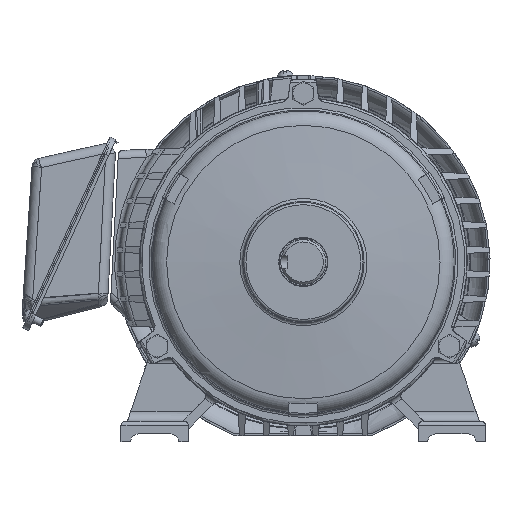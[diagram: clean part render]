
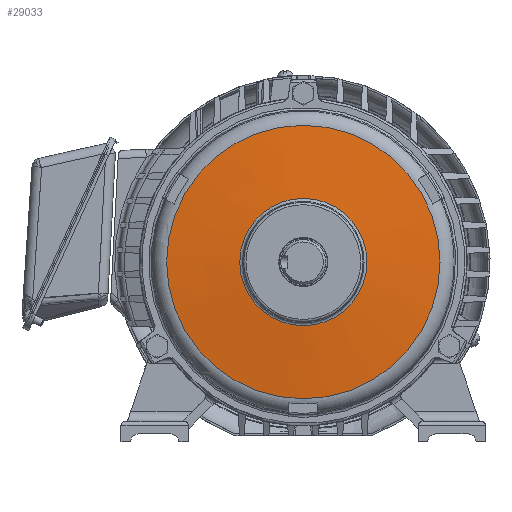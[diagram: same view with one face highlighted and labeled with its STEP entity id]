
A CAD part, front view. The second image highlights one B-rep face of the part: STEP entity #29033.
In plain terms, the highlighted conical face has half-angle 84.882 degrees and reference radius 92.5 mm.
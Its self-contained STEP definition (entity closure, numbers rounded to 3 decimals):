
#399=CONICAL_SURFACE('',#31105,92.5,1.481);
#2456=CIRCLE('',#31106,85.099);
#2457=CIRCLE('',#31107,39.578);
#6130=ORIENTED_EDGE('',*,*,#12090,.T.);
#6131=ORIENTED_EDGE('',*,*,#12091,.T.);
#12090=EDGE_CURVE('',#15299,#15299,#2456,.T.);
#12091=EDGE_CURVE('',#15300,#15300,#2457,.T.);
#15299=VERTEX_POINT('',#49232);
#15300=VERTEX_POINT('',#49234);
#20245=EDGE_LOOP('',(#6130));
#20246=EDGE_LOOP('',(#6131));
#22058=FACE_BOUND('',#20245,.T.);
#22059=FACE_BOUND('',#20246,.T.);
#29033=ADVANCED_FACE('',(#22058,#22059),#399,.T.);
#31105=AXIS2_PLACEMENT_3D('',#49230,#35535,#35536);
#31106=AXIS2_PLACEMENT_3D('',#49231,#35537,#35538);
#31107=AXIS2_PLACEMENT_3D('',#49233,#35539,#35540);
#35535=DIRECTION('',(0.,1.,0.));
#35536=DIRECTION('',(-1.,0.,0.));
#35537=DIRECTION('',(0.,-1.,0.));
#35538=DIRECTION('',(1.,0.,0.));
#35539=DIRECTION('',(0.,1.,0.));
#35540=DIRECTION('',(-1.,0.,0.));
#49230=CARTESIAN_POINT('',(0.,11.881,0.));
#49231=CARTESIAN_POINT('',(0.,11.218,0.));
#49232=CARTESIAN_POINT('',(85.099,11.218,0.));
#49233=CARTESIAN_POINT('',(0.,7.141,0.));
#49234=CARTESIAN_POINT('',(-39.578,7.141,0.));
